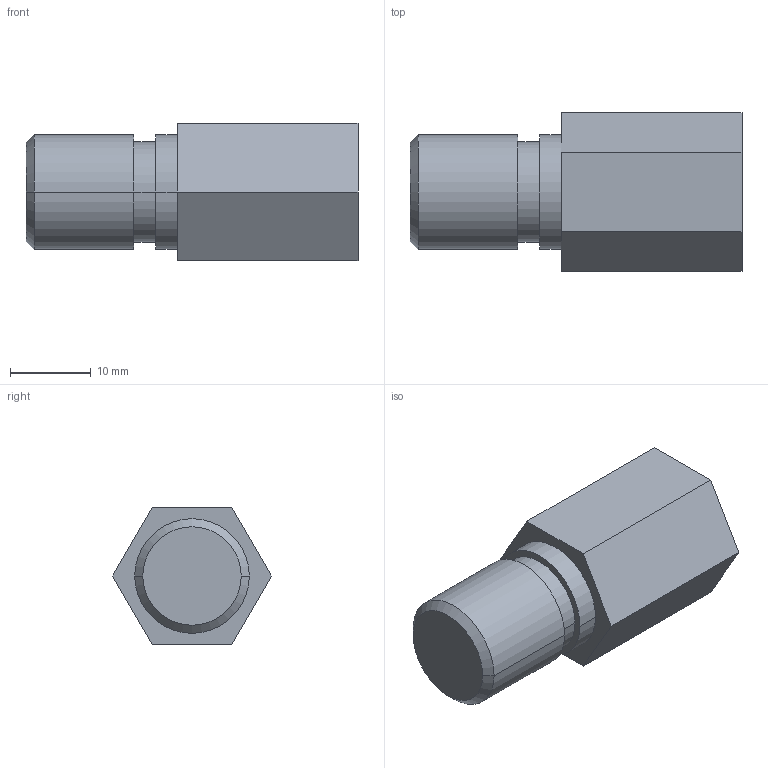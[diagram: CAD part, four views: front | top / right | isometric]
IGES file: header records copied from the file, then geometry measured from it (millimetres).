
Global section: file name: No Iges File Name specified; native system: Autodesk Inventor 2009; preprocessor: AutoDesk Inventor Iges Exporter R2009; author: y-shimohigashi; date: 20080702.095333; units: millimetre
Bounding box: 41 x 19.63 x 17 mm (x, y, z)
Volume: 6651.2 mm3; surface area: 3194.2 mm2
Topology: 1 solids, 1 shells, 22 faces, 46 edges, 30 vertices
Faces by surface type: plane 12, cylinder 6, cone 2, revolution 2
